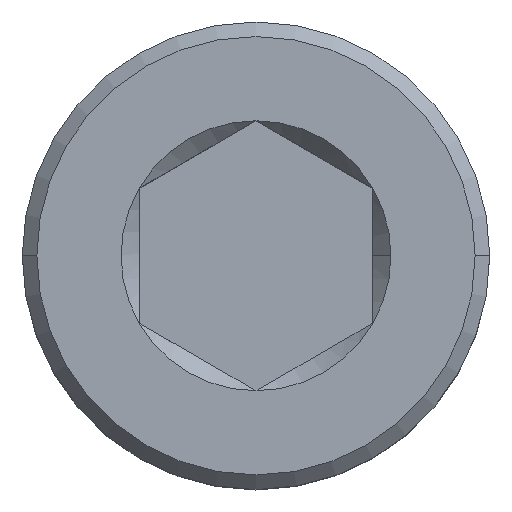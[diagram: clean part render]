
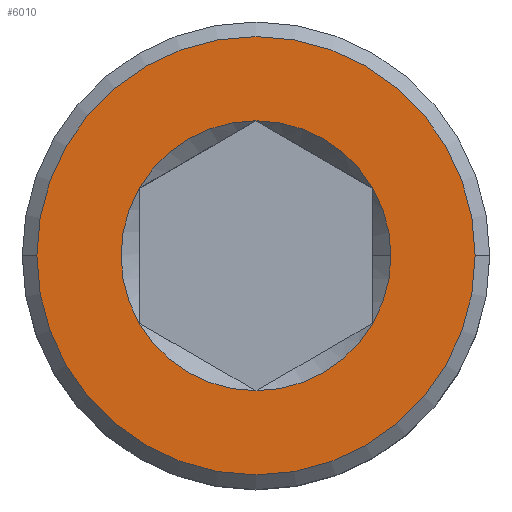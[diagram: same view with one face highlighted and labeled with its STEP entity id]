
A CAD part, top view. The second image highlights one B-rep face of the part: STEP entity #6010.
In plain terms, the highlighted planar face has unit normal (0, 0, 1).
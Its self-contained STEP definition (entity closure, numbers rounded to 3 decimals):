
#148 = CARTESIAN_POINT ( 'NONE',  ( 0., 0., 0. ) ) ;
#461 = CARTESIAN_POINT ( 'NONE',  ( 0., -4.619, 0. ) ) ;
#527 = DIRECTION ( 'NONE',  ( 0., 0., 1. ) ) ;
#600 = VERTEX_POINT ( 'NONE', #6017 ) ;
#628 = DIRECTION ( 'NONE',  ( 0., 0., 1. ) ) ;
#675 = CIRCLE ( 'NONE', #2658, 4.619 ) ;
#904 = DIRECTION ( 'NONE',  ( 1., 0., 0. ) ) ;
#926 = ORIENTED_EDGE ( 'NONE', *, *, #1643, .F. ) ;
#930 = DIRECTION ( 'NONE',  ( 0., 0., 1. ) ) ;
#931 = VERTEX_POINT ( 'NONE', #3175 ) ;
#953 = VERTEX_POINT ( 'NONE', #5150 ) ;
#1104 = VERTEX_POINT ( 'NONE', #461 ) ;
#1117 = EDGE_CURVE ( 'NONE', #3712, #953, #675, .T. ) ;
#1156 = EDGE_LOOP ( 'NONE', ( #2481, #926, #5204, #4859, #3366, #6482, #5140 ) ) ;
#1220 = CARTESIAN_POINT ( 'NONE',  ( 4., -2.309, 0. ) ) ;
#1254 = CARTESIAN_POINT ( 'NONE',  ( 0., 0., 0. ) ) ;
#1325 = DIRECTION ( 'NONE',  ( 0., 0., 1. ) ) ;
#1409 = AXIS2_PLACEMENT_3D ( 'NONE', #3409, #930, #5410 ) ;
#1479 = CIRCLE ( 'NONE', #6002, 4.619 ) ;
#1551 = FACE_OUTER_BOUND ( 'NONE', #3083, .T. ) ;
#1566 = DIRECTION ( 'NONE',  ( 0., 0., 1. ) ) ;
#1581 = CARTESIAN_POINT ( 'NONE',  ( 0., 0., 0. ) ) ;
#1599 = DIRECTION ( 'NONE',  ( 1., 0., 0. ) ) ;
#1628 = CIRCLE ( 'NONE', #6356, 4.619 ) ;
#1631 = DIRECTION ( 'NONE',  ( 0., 0., 1. ) ) ;
#1643 = EDGE_CURVE ( 'NONE', #1662, #931, #1479, .T. ) ;
#1662 = VERTEX_POINT ( 'NONE', #6057 ) ;
#1908 = DIRECTION ( 'NONE',  ( 1., 0., 0. ) ) ;
#2070 = EDGE_CURVE ( 'NONE', #5471, #2148, #3703, .T. ) ;
#2098 = DIRECTION ( 'NONE',  ( 1., 0., 0. ) ) ;
#2148 = VERTEX_POINT ( 'NONE', #2450 ) ;
#2167 = DIRECTION ( 'NONE',  ( 0., 0., 1. ) ) ;
#2176 = DIRECTION ( 'NONE',  ( 1., 0., 0. ) ) ;
#2313 = DIRECTION ( 'NONE',  ( 0., 0., 1. ) ) ;
#2427 = EDGE_CURVE ( 'NONE', #5607, #1662, #6213, .T. ) ;
#2450 = CARTESIAN_POINT ( 'NONE',  ( -7.5, 0., 0. ) ) ;
#2481 = ORIENTED_EDGE ( 'NONE', *, *, #5759, .F. ) ;
#2516 = CARTESIAN_POINT ( 'NONE',  ( 0., 0., 0. ) ) ;
#2641 = AXIS2_PLACEMENT_3D ( 'NONE', #6152, #3255, #5225 ) ;
#2658 = AXIS2_PLACEMENT_3D ( 'NONE', #4017, #2926, #1908 ) ;
#2660 = PLANE ( 'NONE',  #5198 ) ;
#2776 = CIRCLE ( 'NONE', #1409, 4.619 ) ;
#2926 = DIRECTION ( 'NONE',  ( 0., 0., 1. ) ) ;
#3083 = EDGE_LOOP ( 'NONE', ( #3765, #4794 ) ) ;
#3087 = CIRCLE ( 'NONE', #4768, 4.619 ) ;
#3175 = CARTESIAN_POINT ( 'NONE',  ( 4., 2.309, 0. ) ) ;
#3255 = DIRECTION ( 'NONE',  ( 0., 0., 1. ) ) ;
#3273 = AXIS2_PLACEMENT_3D ( 'NONE', #3651, #1325, #3313 ) ;
#3274 = DIRECTION ( 'NONE',  ( 1., 0., 0. ) ) ;
#3311 = CIRCLE ( 'NONE', #3529, 4.619 ) ;
#3313 = DIRECTION ( 'NONE',  ( 1., 0., 0. ) ) ;
#3366 = ORIENTED_EDGE ( 'NONE', *, *, #4370, .F. ) ;
#3409 = CARTESIAN_POINT ( 'NONE',  ( 0., 0., 0. ) ) ;
#3424 = EDGE_CURVE ( 'NONE', #2148, #5471, #4342, .T. ) ;
#3490 = AXIS2_PLACEMENT_3D ( 'NONE', #2516, #1566, #2098 ) ;
#3529 = AXIS2_PLACEMENT_3D ( 'NONE', #148, #2167, #904 ) ;
#3651 = CARTESIAN_POINT ( 'NONE',  ( 0., 0., 0. ) ) ;
#3703 = CIRCLE ( 'NONE', #3490, 7.5 ) ;
#3712 = VERTEX_POINT ( 'NONE', #4078 ) ;
#3765 = ORIENTED_EDGE ( 'NONE', *, *, #3424, .T. ) ;
#4017 = CARTESIAN_POINT ( 'NONE',  ( 0., 0., 0. ) ) ;
#4018 = CARTESIAN_POINT ( 'NONE',  ( 0., 0., 0. ) ) ;
#4052 = DIRECTION ( 'NONE',  ( 1., 0., 0. ) ) ;
#4078 = CARTESIAN_POINT ( 'NONE',  ( 0., 4.619, 0. ) ) ;
#4342 = CIRCLE ( 'NONE', #2641, 7.5 ) ;
#4370 = EDGE_CURVE ( 'NONE', #600, #1104, #3087, .T. ) ;
#4633 = CARTESIAN_POINT ( 'NONE',  ( 0., 0., 0. ) ) ;
#4768 = AXIS2_PLACEMENT_3D ( 'NONE', #4633, #1631, #1599 ) ;
#4794 = ORIENTED_EDGE ( 'NONE', *, *, #2070, .T. ) ;
#4859 = ORIENTED_EDGE ( 'NONE', *, *, #5066, .F. ) ;
#5066 = EDGE_CURVE ( 'NONE', #1104, #5607, #3311, .T. ) ;
#5073 = FACE_BOUND ( 'NONE', #1156, .T. ) ;
#5074 = EDGE_CURVE ( 'NONE', #953, #600, #1628, .T. ) ;
#5140 = ORIENTED_EDGE ( 'NONE', *, *, #1117, .F. ) ;
#5150 = CARTESIAN_POINT ( 'NONE',  ( -4., 2.309, 0. ) ) ;
#5198 = AXIS2_PLACEMENT_3D ( 'NONE', #1581, #628, #2176 ) ;
#5204 = ORIENTED_EDGE ( 'NONE', *, *, #2427, .F. ) ;
#5225 = DIRECTION ( 'NONE',  ( 1., 0., 0. ) ) ;
#5410 = DIRECTION ( 'NONE',  ( 1., 0., 0. ) ) ;
#5453 = CARTESIAN_POINT ( 'NONE',  ( 7.5, 0., 0. ) ) ;
#5471 = VERTEX_POINT ( 'NONE', #5453 ) ;
#5607 = VERTEX_POINT ( 'NONE', #1220 ) ;
#5759 = EDGE_CURVE ( 'NONE', #931, #3712, #2776, .T. ) ;
#6002 = AXIS2_PLACEMENT_3D ( 'NONE', #4018, #527, #4052 ) ;
#6010 = ADVANCED_FACE ( 'NONE', ( #1551, #5073 ), #2660, .T. ) ;
#6017 = CARTESIAN_POINT ( 'NONE',  ( -4., -2.309, 0. ) ) ;
#6057 = CARTESIAN_POINT ( 'NONE',  ( 4.619, 0., 0. ) ) ;
#6152 = CARTESIAN_POINT ( 'NONE',  ( 0., 0., 0. ) ) ;
#6213 = CIRCLE ( 'NONE', #3273, 4.619 ) ;
#6356 = AXIS2_PLACEMENT_3D ( 'NONE', #1254, #2313, #3274 ) ;
#6482 = ORIENTED_EDGE ( 'NONE', *, *, #5074, .F. ) ;
